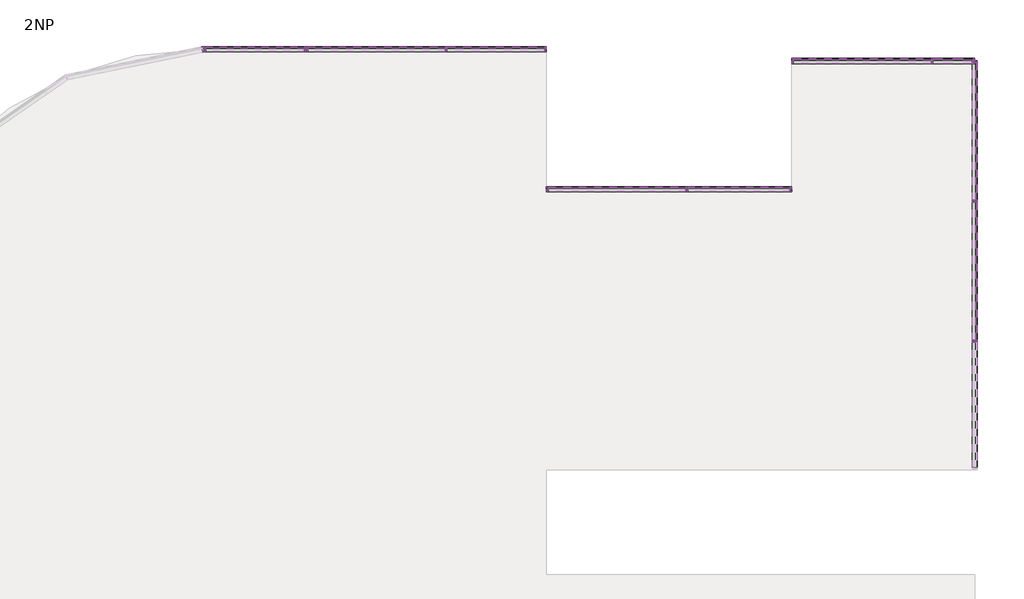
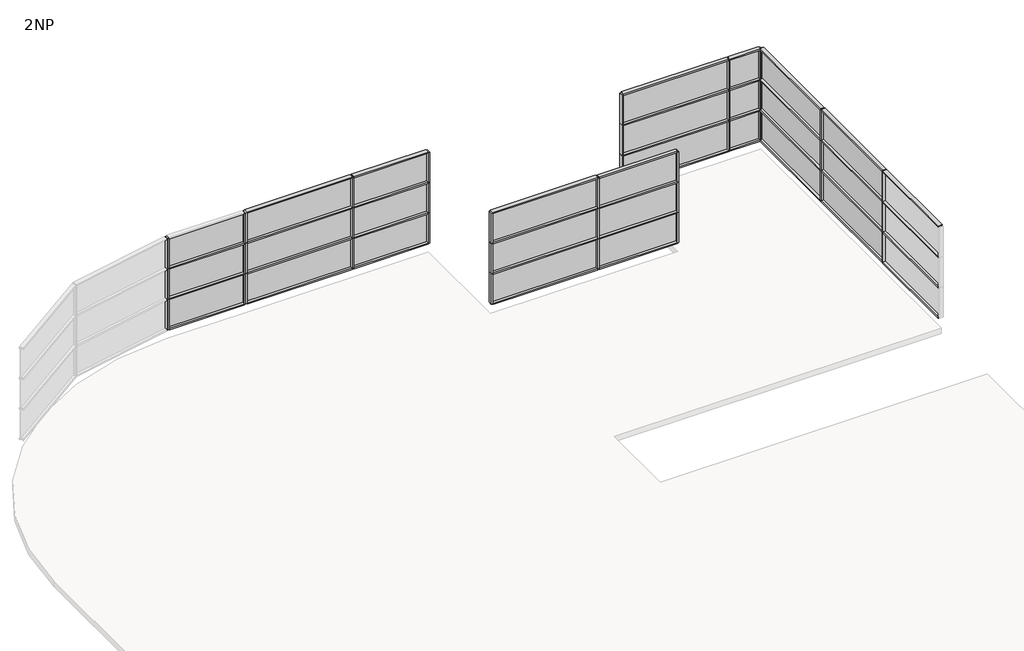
# One storey, part 3 of 4: 84 members, 27 plates.
"""IFC4 building model written with IfcOpenShell, lengths in millimetres."""

from ifc_helpers import new_model, si_unit, origin, place, context, project, spatial, transform, mapped, element, save
from components import rectangular_mullion_50_x_150mm_d99dc9be, rectangular_mullion_50_x_150mm_6588f46c, rectangular_mullion_50_x_150mm_3fe1b35e, rectangular_mullion_50_x_150mm_a037c29c, rectangular_mullion_50_x_150mm_c2546fd4, rectangular_mullion_50_x_150mm_8b4cb4b7, rectangular_mullion_50_x_150mm_185cfd49, rectangular_mullion_50_x_150mm_2fe63767, rectangular_mullion_50_x_150mm_6d604593, system_panel_glazed_8e9402eb, system_panel_glazed_89ac83a7, system_panel_glazed_e890f31e, system_panel_glazed_e3e91f99, system_panel_glazed_39d17f19, system_panel_glazed_18d93cd4

model = new_model("IFC4")

# Units and contexts
model_context = context("Model", 3, world=origin())
ifc_project = project(units=[si_unit("LENGTHUNIT", "METRE", prefix="MILLI")], contexts=[model_context])

# Site, building, storey
site = spatial("IfcSite", under=ifc_project)
building = spatial("IfcBuilding", under=site)
storey = spatial("IfcBuildingStorey", under=building, Name="2NP", Elevation=8000.0)

# Members
placement = place(None, origin())
rectangular_mullion_50_x_150mm_shape = rectangular_mullion_50_x_150mm_d99dc9be(model_context)
element("IfcMember", 1, ObjectType="Rectangular Mullion : 50 x 150mm", at=placement, inside=storey, context=model_context, shape_type="MappedRepresentation", body=[
    mapped(rectangular_mullion_50_x_150mm_shape, transform((13503.2660975, 39.3555415, 12000.0), x_axis=(0.0, -1.0, 0.0), y_axis=(1.0, 0.0, 0.0), z_axis=(0.0, 0.0, 1.0))),
])
element("IfcMember", 2, ObjectType="Rectangular Mullion : 50 x 150mm", at=placement, inside=storey, context=model_context, shape_type="MappedRepresentation", body=[
    mapped(rectangular_mullion_50_x_150mm_shape, transform((13503.2660975, 39.3555415, 10800.0), x_axis=(0.0, -1.0, 0.0), y_axis=(1.0, 0.0, 0.0), z_axis=(0.0, 0.0, 1.0))),
])
element("IfcMember", 3, ObjectType="Rectangular Mullion : 50 x 150mm", at=placement, inside=storey, context=model_context, shape_type="MappedRepresentation", body=[
    mapped(rectangular_mullion_50_x_150mm_shape, transform((13503.2660975, 39.3555415, 9600.0), x_axis=(0.0, -1.0, 0.0), y_axis=(1.0, 0.0, 0.0), z_axis=(0.0, 0.0, 1.0))),
])
element("IfcMember", 4, ObjectType="Rectangular Mullion : 50 x 150mm", at=placement, inside=storey, context=model_context, shape_type="MappedRepresentation", body=[
    mapped(rectangular_mullion_50_x_150mm_shape, transform((13503.2660975, 4039.3555415, 12000.0), x_axis=(0.0, -1.0, 0.0), y_axis=(1.0, 0.0, 0.0), z_axis=(0.0, 0.0, 1.0))),
])
element("IfcMember", 5, ObjectType="Rectangular Mullion : 50 x 150mm", at=placement, inside=storey, context=model_context, shape_type="MappedRepresentation", body=[
    mapped(rectangular_mullion_50_x_150mm_shape, transform((13503.2660975, 4039.3555415, 10800.0), x_axis=(0.0, -1.0, 0.0), y_axis=(1.0, 0.0, 0.0), z_axis=(0.0, 0.0, 1.0))),
])
element("IfcMember", 6, ObjectType="Rectangular Mullion : 50 x 150mm", at=placement, inside=storey, context=model_context, shape_type="MappedRepresentation", body=[
    mapped(rectangular_mullion_50_x_150mm_shape, transform((13503.2660975, 4039.3555415, 9600.0), x_axis=(0.0, -1.0, 0.0), y_axis=(1.0, 0.0, 0.0), z_axis=(0.0, 0.0, 1.0))),
])
element("IfcMember", 7, ObjectType="Rectangular Mullion : 50 x 150mm", at=placement, inside=storey, context=model_context, shape_type="MappedRepresentation", body=[
    mapped(rectangular_mullion_50_x_150mm_shape, transform((-1587.173406, 8375.9839566, 9600.0), x_axis=(1.0, 0.0, 0.0), y_axis=(0.0, 1.0, 0.0), z_axis=(0.0, 0.0, 1.0))),
])
element("IfcMember", 8, ObjectType="Rectangular Mullion : 50 x 150mm", at=placement, inside=storey, context=model_context, shape_type="MappedRepresentation", body=[
    mapped(rectangular_mullion_50_x_150mm_shape, transform((-1587.173406, 8375.9839566, 10800.0), x_axis=(1.0, 0.0, 0.0), y_axis=(0.0, 1.0, 0.0), z_axis=(0.0, 0.0, 1.0))),
])
element("IfcMember", 9, ObjectType="Rectangular Mullion : 50 x 150mm", at=placement, inside=storey, context=model_context, shape_type="MappedRepresentation", body=[
    mapped(rectangular_mullion_50_x_150mm_shape, transform((-1587.173406, 8375.9839566, 12000.0), x_axis=(1.0, 0.0, 0.0), y_axis=(0.0, 1.0, 0.0), z_axis=(0.0, 0.0, 1.0))),
])
element("IfcMember", 10, ObjectType="Rectangular Mullion : 50 x 150mm", at=placement, inside=storey, context=model_context, shape_type="MappedRepresentation", body=[
    mapped(rectangular_mullion_50_x_150mm_shape, transform((5278.419219, 4375.9839566, 9600.0), x_axis=(1.0, 0.0, 0.0), y_axis=(0.0, 1.0, 0.0), z_axis=(0.0, 0.0, 1.0))),
])
element("IfcMember", 11, ObjectType="Rectangular Mullion : 50 x 150mm", at=placement, inside=storey, context=model_context, shape_type="MappedRepresentation", body=[
    mapped(rectangular_mullion_50_x_150mm_shape, transform((5278.419219, 4375.9839566, 10800.0), x_axis=(1.0, 0.0, 0.0), y_axis=(0.0, 1.0, 0.0), z_axis=(0.0, 0.0, 1.0))),
])
element("IfcMember", 12, ObjectType="Rectangular Mullion : 50 x 150mm", at=placement, inside=storey, context=model_context, shape_type="MappedRepresentation", body=[
    mapped(rectangular_mullion_50_x_150mm_shape, transform((5278.419219, 4375.9839566, 12000.0), x_axis=(1.0, 0.0, 0.0), y_axis=(0.0, 1.0, 0.0), z_axis=(0.0, 0.0, 1.0))),
])
element("IfcMember", 13, ObjectType="Rectangular Mullion : 50 x 150mm", at=placement, inside=storey, context=model_context, shape_type="MappedRepresentation", body=[
    mapped(rectangular_mullion_50_x_150mm_shape, transform((12278.419219, 8039.3555415, 9600.0), x_axis=(1.0, 0.0, 0.0), y_axis=(0.0, 1.0, 0.0), z_axis=(0.0, 0.0, 1.0))),
])
element("IfcMember", 14, ObjectType="Rectangular Mullion : 50 x 150mm", at=placement, inside=storey, context=model_context, shape_type="MappedRepresentation", body=[
    mapped(rectangular_mullion_50_x_150mm_shape, transform((12278.419219, 8039.3555415, 10800.0), x_axis=(1.0, 0.0, 0.0), y_axis=(0.0, 1.0, 0.0), z_axis=(0.0, 0.0, 1.0))),
])
element("IfcMember", 15, ObjectType="Rectangular Mullion : 50 x 150mm", at=placement, inside=storey, context=model_context, shape_type="MappedRepresentation", body=[
    mapped(rectangular_mullion_50_x_150mm_shape, transform((12278.419219, 8039.3555415, 12000.0), x_axis=(1.0, 0.0, 0.0), y_axis=(0.0, 1.0, 0.0), z_axis=(0.0, 0.0, 1.0))),
])
rectangular_mullion_50_x_150mm_2_shape = rectangular_mullion_50_x_150mm_6588f46c(model_context)
element("IfcMember", 16, ObjectType="Rectangular Mullion : 50 x 150mm", at=placement, inside=storey, context=model_context, shape_type="MappedRepresentation", body=[
    mapped(rectangular_mullion_50_x_150mm_2_shape, transform((1278.419219, 8375.9839566, 9600.0), x_axis=(1.0, 0.0, 0.0), y_axis=(0.0, 1.0, 0.0), z_axis=(0.0, 0.0, 1.0))),
])
element("IfcMember", 17, ObjectType="Rectangular Mullion : 50 x 150mm", at=placement, inside=storey, context=model_context, shape_type="MappedRepresentation", body=[
    mapped(rectangular_mullion_50_x_150mm_2_shape, transform((1278.419219, 8375.9839566, 10800.0), x_axis=(1.0, 0.0, 0.0), y_axis=(0.0, 1.0, 0.0), z_axis=(0.0, 0.0, 1.0))),
])
element("IfcMember", 18, ObjectType="Rectangular Mullion : 50 x 150mm", at=placement, inside=storey, context=model_context, shape_type="MappedRepresentation", body=[
    mapped(rectangular_mullion_50_x_150mm_2_shape, transform((1278.419219, 8375.9839566, 12000.0), x_axis=(1.0, 0.0, 0.0), y_axis=(0.0, 1.0, 0.0), z_axis=(0.0, 0.0, 1.0))),
])
element("IfcMember", 19, ObjectType="Rectangular Mullion : 50 x 150mm", at=placement, inside=storey, context=model_context, shape_type="MappedRepresentation", body=[
    mapped(rectangular_mullion_50_x_150mm_2_shape, transform((8278.419219, 4375.9839566, 9600.0), x_axis=(1.0, 0.0, 0.0), y_axis=(0.0, 1.0, 0.0), z_axis=(0.0, 0.0, 1.0))),
])
element("IfcMember", 20, ObjectType="Rectangular Mullion : 50 x 150mm", at=placement, inside=storey, context=model_context, shape_type="MappedRepresentation", body=[
    mapped(rectangular_mullion_50_x_150mm_2_shape, transform((8278.419219, 4375.9839566, 10800.0), x_axis=(1.0, 0.0, 0.0), y_axis=(0.0, 1.0, 0.0), z_axis=(0.0, 0.0, 1.0))),
])
element("IfcMember", 21, ObjectType="Rectangular Mullion : 50 x 150mm", at=placement, inside=storey, context=model_context, shape_type="MappedRepresentation", body=[
    mapped(rectangular_mullion_50_x_150mm_2_shape, transform((8278.419219, 4375.9839566, 12000.0), x_axis=(1.0, 0.0, 0.0), y_axis=(0.0, 1.0, 0.0), z_axis=(0.0, 0.0, 1.0))),
])
element("IfcMember", 22, ObjectType="Rectangular Mullion : 50 x 150mm", at=placement, inside=storey, context=model_context, shape_type="MappedRepresentation", body=[
    mapped(rectangular_mullion_50_x_150mm_2_shape, transform((13503.2660975, 8039.3555415, 9600.0), x_axis=(1.0, 0.0, 0.0), y_axis=(0.0, 1.0, 0.0), z_axis=(0.0, 0.0, 1.0))),
])
element("IfcMember", 23, ObjectType="Rectangular Mullion : 50 x 150mm", at=placement, inside=storey, context=model_context, shape_type="MappedRepresentation", body=[
    mapped(rectangular_mullion_50_x_150mm_2_shape, transform((13503.2660975, 8039.3555415, 10800.0), x_axis=(1.0, 0.0, 0.0), y_axis=(0.0, 1.0, 0.0), z_axis=(0.0, 0.0, 1.0))),
])
element("IfcMember", 24, ObjectType="Rectangular Mullion : 50 x 150mm", at=placement, inside=storey, context=model_context, shape_type="MappedRepresentation", body=[
    mapped(rectangular_mullion_50_x_150mm_2_shape, transform((13503.2660975, 8039.3555415, 12000.0), x_axis=(1.0, 0.0, 0.0), y_axis=(0.0, 1.0, 0.0), z_axis=(0.0, 0.0, 1.0))),
])
element("IfcMember", 25, ObjectType="Rectangular Mullion : 50 x 150mm", at=placement, inside=storey, context=model_context, shape_type="MappedRepresentation", body=[
    mapped(rectangular_mullion_50_x_150mm_2_shape, transform((-5587.173406, 8375.9839566, 12000.0), x_axis=(1.0, 0.0, 0.0), y_axis=(0.0, 1.0, 0.0), z_axis=(0.0, 0.0, 1.0))),
])
element("IfcMember", 26, ObjectType="Rectangular Mullion : 50 x 150mm", at=placement, inside=storey, context=model_context, shape_type="MappedRepresentation", body=[
    mapped(rectangular_mullion_50_x_150mm_2_shape, transform((-5587.173406, 8375.9839566, 9600.0), x_axis=(1.0, 0.0, 0.0), y_axis=(0.0, 1.0, 0.0), z_axis=(0.0, 0.0, 1.0))),
])
element("IfcMember", 27, ObjectType="Rectangular Mullion : 50 x 150mm", at=placement, inside=storey, context=model_context, shape_type="MappedRepresentation", body=[
    mapped(rectangular_mullion_50_x_150mm_2_shape, transform((-5587.173406, 8375.9839566, 10800.0), x_axis=(1.0, 0.0, 0.0), y_axis=(0.0, 1.0, 0.0), z_axis=(0.0, 0.0, 1.0))),
])
element("IfcMember", 28, ObjectType="Rectangular Mullion : 50 x 150mm", at=placement, inside=storey, context=model_context, shape_type="MappedRepresentation", body=[
    mapped(rectangular_mullion_50_x_150mm_2_shape, transform((-8496.7339025, 8375.9839566, 9600.0), x_axis=(0.9797958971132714, 0.1999999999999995, 0.0), y_axis=(-0.1999999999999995, 0.9797958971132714, 0.0), z_axis=(0.0, 0.0, 1.0))),
])
element("IfcMember", 29, ObjectType="Rectangular Mullion : 50 x 150mm", at=placement, inside=storey, context=model_context, shape_type="MappedRepresentation", body=[
    mapped(rectangular_mullion_50_x_150mm_2_shape, transform((-8496.7339025, 8375.9839566, 10800.0), x_axis=(0.9797958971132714, 0.1999999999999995, 0.0), y_axis=(-0.1999999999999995, 0.9797958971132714, 0.0), z_axis=(0.0, 0.0, 1.0))),
])
element("IfcMember", 30, ObjectType="Rectangular Mullion : 50 x 150mm", at=placement, inside=storey, context=model_context, shape_type="MappedRepresentation", body=[
    mapped(rectangular_mullion_50_x_150mm_2_shape, transform((-8496.7339025, 8375.9839566, 12000.0), x_axis=(0.9797958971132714, 0.1999999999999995, 0.0), y_axis=(-0.1999999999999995, 0.9797958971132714, 0.0), z_axis=(0.0, 0.0, 1.0))),
])
rectangular_mullion_50_x_150mm_3_shape = rectangular_mullion_50_x_150mm_3fe1b35e(model_context)
element("IfcMember", 31, ObjectType="Rectangular Mullion : 50 x 150mm", at=placement, inside=storey, context=model_context, shape_type="MappedRepresentation", body=[
    mapped(rectangular_mullion_50_x_150mm_3_shape, transform((13503.2660975, 14.3555415, 8400.0), x_axis=(0.0, 0.0, 1.0), y_axis=(1.0, 0.0, 0.0), z_axis=(0.0, 1.0, 0.0))),
])
element("IfcMember", 32, ObjectType="Rectangular Mullion : 50 x 150mm", at=placement, inside=storey, context=model_context, shape_type="MappedRepresentation", body=[
    mapped(rectangular_mullion_50_x_150mm_3_shape, transform((13503.2660975, 14.3555415, 9600.0), x_axis=(0.0, 0.0, 1.0), y_axis=(1.0, 0.0, 0.0), z_axis=(0.0, 1.0, 0.0))),
])
element("IfcMember", 33, ObjectType="Rectangular Mullion : 50 x 150mm", at=placement, inside=storey, context=model_context, shape_type="MappedRepresentation", body=[
    mapped(rectangular_mullion_50_x_150mm_3_shape, transform((13503.2660975, 14.3555415, 10800.0), x_axis=(0.0, 0.0, 1.0), y_axis=(1.0, 0.0, 0.0), z_axis=(0.0, 1.0, 0.0))),
])
element("IfcMember", 34, ObjectType="Rectangular Mullion : 50 x 150mm", at=placement, inside=storey, context=model_context, shape_type="MappedRepresentation", body=[
    mapped(rectangular_mullion_50_x_150mm_3_shape, transform((13503.2660975, 14.3555415, 12000.0), x_axis=(0.0, 0.0, 1.0), y_axis=(1.0, 0.0, 0.0), z_axis=(0.0, 1.0, 0.0))),
])
rectangular_mullion_50_x_150mm_4_shape = rectangular_mullion_50_x_150mm_a037c29c(model_context)
element("IfcMember", 35, ObjectType="Rectangular Mullion : 50 x 150mm", at=placement, inside=storey, context=model_context, shape_type="MappedRepresentation", body=[
    mapped(rectangular_mullion_50_x_150mm_4_shape, transform((13503.2660975, 4014.3555415, 9600.0), x_axis=(0.0, 0.0, 1.0), y_axis=(1.0, 0.0, 0.0), z_axis=(0.0, 1.0, 0.0))),
])
element("IfcMember", 36, ObjectType="Rectangular Mullion : 50 x 150mm", at=placement, inside=storey, context=model_context, shape_type="MappedRepresentation", body=[
    mapped(rectangular_mullion_50_x_150mm_4_shape, transform((13503.2660975, 4014.3555415, 8400.0), x_axis=(0.0, 0.0, 1.0), y_axis=(1.0, 0.0, 0.0), z_axis=(0.0, 1.0, 0.0))),
])
element("IfcMember", 37, ObjectType="Rectangular Mullion : 50 x 150mm", at=placement, inside=storey, context=model_context, shape_type="MappedRepresentation", body=[
    mapped(rectangular_mullion_50_x_150mm_4_shape, transform((13503.2660975, 4014.3555415, 12000.0), x_axis=(0.0, 0.0, 1.0), y_axis=(1.0, 0.0, 0.0), z_axis=(0.0, 1.0, 0.0))),
])
element("IfcMember", 38, ObjectType="Rectangular Mullion : 50 x 150mm", at=placement, inside=storey, context=model_context, shape_type="MappedRepresentation", body=[
    mapped(rectangular_mullion_50_x_150mm_4_shape, transform((13503.2660975, 4014.3555415, 10800.0), x_axis=(0.0, 0.0, 1.0), y_axis=(1.0, 0.0, 0.0), z_axis=(0.0, 1.0, 0.0))),
])
rectangular_mullion_50_x_150mm_5_shape = rectangular_mullion_50_x_150mm_c2546fd4(model_context)
element("IfcMember", 39, ObjectType="Rectangular Mullion : 50 x 150mm", at=placement, inside=storey, context=model_context, shape_type="MappedRepresentation", body=[
    mapped(rectangular_mullion_50_x_150mm_5_shape, transform((13503.2660975, 7989.3555415, 9600.0), x_axis=(0.0, 0.0, 1.0), y_axis=(1.0, 0.0, 0.0), z_axis=(0.0, 1.0, 0.0))),
])
element("IfcMember", 40, ObjectType="Rectangular Mullion : 50 x 150mm", at=placement, inside=storey, context=model_context, shape_type="MappedRepresentation", body=[
    mapped(rectangular_mullion_50_x_150mm_5_shape, transform((13503.2660975, 7989.3555415, 8400.0), x_axis=(0.0, 0.0, 1.0), y_axis=(1.0, 0.0, 0.0), z_axis=(0.0, 1.0, 0.0))),
])
element("IfcMember", 41, ObjectType="Rectangular Mullion : 50 x 150mm", at=placement, inside=storey, context=model_context, shape_type="MappedRepresentation", body=[
    mapped(rectangular_mullion_50_x_150mm_5_shape, transform((13503.2660975, 7989.3555415, 10800.0), x_axis=(0.0, 0.0, 1.0), y_axis=(1.0, 0.0, 0.0), z_axis=(0.0, 1.0, 0.0))),
])
element("IfcMember", 42, ObjectType="Rectangular Mullion : 50 x 150mm", at=placement, inside=storey, context=model_context, shape_type="MappedRepresentation", body=[
    mapped(rectangular_mullion_50_x_150mm_5_shape, transform((13503.2660975, 7989.3555415, 12000.0), x_axis=(0.0, 0.0, 1.0), y_axis=(1.0, 0.0, 0.0), z_axis=(0.0, 1.0, 0.0))),
])
element("IfcMember", 43, ObjectType="Rectangular Mullion : 50 x 150mm", at=placement, inside=storey, context=model_context, shape_type="MappedRepresentation", body=[
    mapped(rectangular_mullion_50_x_150mm_5_shape, transform((-5537.173406, 8375.9839566, 12000.0), x_axis=(0.0, 0.0, 1.0), y_axis=(0.0, 1.0, 0.0), z_axis=(-1.0, 0.0, 0.0))),
])
element("IfcMember", 44, ObjectType="Rectangular Mullion : 50 x 150mm", at=placement, inside=storey, context=model_context, shape_type="MappedRepresentation", body=[
    mapped(rectangular_mullion_50_x_150mm_5_shape, transform((-5537.173406, 8375.9839566, 8400.0), x_axis=(0.0, 0.0, 1.0), y_axis=(0.0, 1.0, 0.0), z_axis=(-1.0, 0.0, 0.0))),
])
element("IfcMember", 45, ObjectType="Rectangular Mullion : 50 x 150mm", at=placement, inside=storey, context=model_context, shape_type="MappedRepresentation", body=[
    mapped(rectangular_mullion_50_x_150mm_5_shape, transform((-5537.173406, 8375.9839566, 9600.0), x_axis=(0.0, 0.0, 1.0), y_axis=(0.0, 1.0, 0.0), z_axis=(-1.0, 0.0, 0.0))),
])
element("IfcMember", 46, ObjectType="Rectangular Mullion : 50 x 150mm", at=placement, inside=storey, context=model_context, shape_type="MappedRepresentation", body=[
    mapped(rectangular_mullion_50_x_150mm_5_shape, transform((-5537.173406, 8375.9839566, 10800.0), x_axis=(0.0, 0.0, 1.0), y_axis=(0.0, 1.0, 0.0), z_axis=(-1.0, 0.0, 0.0))),
])
element("IfcMember", 47, ObjectType="Rectangular Mullion : 50 x 150mm", at=placement, inside=storey, context=model_context, shape_type="MappedRepresentation", body=[
    mapped(rectangular_mullion_50_x_150mm_5_shape, transform((1328.419219, 4375.9839566, 12000.0), x_axis=(0.0, 0.0, 1.0), y_axis=(0.0, 1.0, 0.0), z_axis=(-1.0, 0.0, 0.0))),
])
element("IfcMember", 48, ObjectType="Rectangular Mullion : 50 x 150mm", at=placement, inside=storey, context=model_context, shape_type="MappedRepresentation", body=[
    mapped(rectangular_mullion_50_x_150mm_5_shape, transform((1328.419219, 4375.9839566, 8400.0), x_axis=(0.0, 0.0, 1.0), y_axis=(0.0, 1.0, 0.0), z_axis=(-1.0, 0.0, 0.0))),
])
element("IfcMember", 49, ObjectType="Rectangular Mullion : 50 x 150mm", at=placement, inside=storey, context=model_context, shape_type="MappedRepresentation", body=[
    mapped(rectangular_mullion_50_x_150mm_5_shape, transform((1328.419219, 4375.9839566, 9600.0), x_axis=(0.0, 0.0, 1.0), y_axis=(0.0, 1.0, 0.0), z_axis=(-1.0, 0.0, 0.0))),
])
element("IfcMember", 50, ObjectType="Rectangular Mullion : 50 x 150mm", at=placement, inside=storey, context=model_context, shape_type="MappedRepresentation", body=[
    mapped(rectangular_mullion_50_x_150mm_5_shape, transform((1328.419219, 4375.9839566, 10800.0), x_axis=(0.0, 0.0, 1.0), y_axis=(0.0, 1.0, 0.0), z_axis=(-1.0, 0.0, 0.0))),
])
element("IfcMember", 51, ObjectType="Rectangular Mullion : 50 x 150mm", at=placement, inside=storey, context=model_context, shape_type="MappedRepresentation", body=[
    mapped(rectangular_mullion_50_x_150mm_5_shape, transform((8328.419219, 8039.3555415, 12000.0), x_axis=(0.0, 0.0, 1.0), y_axis=(0.0, 1.0, 0.0), z_axis=(-1.0, 0.0, 0.0))),
])
element("IfcMember", 52, ObjectType="Rectangular Mullion : 50 x 150mm", at=placement, inside=storey, context=model_context, shape_type="MappedRepresentation", body=[
    mapped(rectangular_mullion_50_x_150mm_5_shape, transform((8328.419219, 8039.3555415, 8400.0), x_axis=(0.0, 0.0, 1.0), y_axis=(0.0, 1.0, 0.0), z_axis=(-1.0, 0.0, 0.0))),
])
element("IfcMember", 53, ObjectType="Rectangular Mullion : 50 x 150mm", at=placement, inside=storey, context=model_context, shape_type="MappedRepresentation", body=[
    mapped(rectangular_mullion_50_x_150mm_5_shape, transform((8328.419219, 8039.3555415, 9600.0), x_axis=(0.0, 0.0, 1.0), y_axis=(0.0, 1.0, 0.0), z_axis=(-1.0, 0.0, 0.0))),
])
element("IfcMember", 54, ObjectType="Rectangular Mullion : 50 x 150mm", at=placement, inside=storey, context=model_context, shape_type="MappedRepresentation", body=[
    mapped(rectangular_mullion_50_x_150mm_5_shape, transform((8328.419219, 8039.3555415, 10800.0), x_axis=(0.0, 0.0, 1.0), y_axis=(0.0, 1.0, 0.0), z_axis=(-1.0, 0.0, 0.0))),
])
element("IfcMember", 55, ObjectType="Rectangular Mullion : 50 x 150mm", at=placement, inside=storey, context=model_context, shape_type="MappedRepresentation", body=[
    mapped(rectangular_mullion_50_x_150mm_2_shape, transform((13503.2660975, 8039.3555415, 10800.0), x_axis=(0.0, 1.0, 0.0), y_axis=(1.0, 0.0, 0.0), z_axis=(0.0, 0.0, -1.0))),
])
element("IfcMember", 56, ObjectType="Rectangular Mullion : 50 x 150mm", at=placement, inside=storey, context=model_context, shape_type="MappedRepresentation", body=[
    mapped(rectangular_mullion_50_x_150mm_2_shape, transform((13503.2660975, 8039.3555415, 9600.0), x_axis=(0.0, 1.0, 0.0), y_axis=(1.0, 0.0, 0.0), z_axis=(0.0, 0.0, -1.0))),
])
element("IfcMember", 57, ObjectType="Rectangular Mullion : 50 x 150mm", at=placement, inside=storey, context=model_context, shape_type="MappedRepresentation", body=[
    mapped(rectangular_mullion_50_x_150mm_2_shape, transform((13503.2660975, 8039.3555415, 8400.0), x_axis=(0.0, 1.0, 0.0), y_axis=(1.0, 0.0, 0.0), z_axis=(0.0, 0.0, -1.0))),
])
element("IfcMember", 58, ObjectType="Rectangular Mullion : 50 x 150mm", at=placement, inside=storey, context=model_context, shape_type="MappedRepresentation", body=[
    mapped(rectangular_mullion_50_x_150mm_2_shape, transform((-5587.173406, 8375.9839566, 8400.0), x_axis=(-1.0, 0.0, 0.0), y_axis=(0.0, 1.0, 0.0), z_axis=(0.0, 0.0, -1.0))),
])
element("IfcMember", 59, ObjectType="Rectangular Mullion : 50 x 150mm", at=placement, inside=storey, context=model_context, shape_type="MappedRepresentation", body=[
    mapped(rectangular_mullion_50_x_150mm_2_shape, transform((-5587.173406, 8375.9839566, 9600.0), x_axis=(-1.0, 0.0, 0.0), y_axis=(0.0, 1.0, 0.0), z_axis=(0.0, 0.0, -1.0))),
])
element("IfcMember", 60, ObjectType="Rectangular Mullion : 50 x 150mm", at=placement, inside=storey, context=model_context, shape_type="MappedRepresentation", body=[
    mapped(rectangular_mullion_50_x_150mm_2_shape, transform((-5587.173406, 8375.9839566, 10800.0), x_axis=(-1.0, 0.0, 0.0), y_axis=(0.0, 1.0, 0.0), z_axis=(0.0, 0.0, -1.0))),
])
element("IfcMember", 61, ObjectType="Rectangular Mullion : 50 x 150mm", at=placement, inside=storey, context=model_context, shape_type="MappedRepresentation", body=[
    mapped(rectangular_mullion_50_x_150mm_2_shape, transform((1278.419219, 4375.9839566, 8400.0), x_axis=(-1.0, 0.0, 0.0), y_axis=(0.0, 1.0, 0.0), z_axis=(0.0, 0.0, -1.0))),
])
element("IfcMember", 62, ObjectType="Rectangular Mullion : 50 x 150mm", at=placement, inside=storey, context=model_context, shape_type="MappedRepresentation", body=[
    mapped(rectangular_mullion_50_x_150mm_2_shape, transform((1278.419219, 4375.9839566, 9600.0), x_axis=(-1.0, 0.0, 0.0), y_axis=(0.0, 1.0, 0.0), z_axis=(0.0, 0.0, -1.0))),
])
element("IfcMember", 63, ObjectType="Rectangular Mullion : 50 x 150mm", at=placement, inside=storey, context=model_context, shape_type="MappedRepresentation", body=[
    mapped(rectangular_mullion_50_x_150mm_2_shape, transform((1278.419219, 4375.9839566, 10800.0), x_axis=(-1.0, 0.0, 0.0), y_axis=(0.0, 1.0, 0.0), z_axis=(0.0, 0.0, -1.0))),
])
element("IfcMember", 64, ObjectType="Rectangular Mullion : 50 x 150mm", at=placement, inside=storey, context=model_context, shape_type="MappedRepresentation", body=[
    mapped(rectangular_mullion_50_x_150mm_2_shape, transform((8278.419219, 8039.3555415, 8400.0), x_axis=(-1.0, 0.0, 0.0), y_axis=(0.0, 1.0, 0.0), z_axis=(0.0, 0.0, -1.0))),
])
element("IfcMember", 65, ObjectType="Rectangular Mullion : 50 x 150mm", at=placement, inside=storey, context=model_context, shape_type="MappedRepresentation", body=[
    mapped(rectangular_mullion_50_x_150mm_2_shape, transform((8278.419219, 8039.3555415, 9600.0), x_axis=(-1.0, 0.0, 0.0), y_axis=(0.0, 1.0, 0.0), z_axis=(0.0, 0.0, -1.0))),
])
element("IfcMember", 66, ObjectType="Rectangular Mullion : 50 x 150mm", at=placement, inside=storey, context=model_context, shape_type="MappedRepresentation", body=[
    mapped(rectangular_mullion_50_x_150mm_2_shape, transform((8278.419219, 8039.3555415, 10800.0), x_axis=(-1.0, 0.0, 0.0), y_axis=(0.0, 1.0, 0.0), z_axis=(0.0, 0.0, -1.0))),
])
element("IfcMember", 67, ObjectType="Rectangular Mullion : 50 x 150mm", at=placement, inside=storey, context=model_context, shape_type="MappedRepresentation", body=[
    mapped(rectangular_mullion_50_x_150mm_2_shape, transform((-8496.7339025, 8375.9839566, 8400.0), x_axis=(-1.0, 0.0, 0.0), y_axis=(0.0, 1.0, 0.0), z_axis=(0.0, 0.0, -1.0))),
])
element("IfcMember", 68, ObjectType="Rectangular Mullion : 50 x 150mm", at=placement, inside=storey, context=model_context, shape_type="MappedRepresentation", body=[
    mapped(rectangular_mullion_50_x_150mm_2_shape, transform((-8496.7339025, 8375.9839566, 9600.0), x_axis=(-1.0, 0.0, 0.0), y_axis=(0.0, 1.0, 0.0), z_axis=(0.0, 0.0, -1.0))),
])
element("IfcMember", 69, ObjectType="Rectangular Mullion : 50 x 150mm", at=placement, inside=storey, context=model_context, shape_type="MappedRepresentation", body=[
    mapped(rectangular_mullion_50_x_150mm_2_shape, transform((-8496.7339025, 8375.9839566, 10800.0), x_axis=(-1.0, 0.0, 0.0), y_axis=(0.0, 1.0, 0.0), z_axis=(0.0, 0.0, -1.0))),
])
rectangular_mullion_50_x_150mm_6_shape = rectangular_mullion_50_x_150mm_8b4cb4b7(model_context)
element("IfcMember", 70, ObjectType="Rectangular Mullion : 50 x 150mm", at=placement, inside=storey, context=model_context, shape_type="MappedRepresentation", body=[
    mapped(rectangular_mullion_50_x_150mm_6_shape, transform((-1562.173406, 8375.9839566, 10800.0), x_axis=(0.0, 0.0, 1.0), y_axis=(0.0, 1.0, 0.0), z_axis=(-1.0, 0.0, 0.0))),
])
element("IfcMember", 71, ObjectType="Rectangular Mullion : 50 x 150mm", at=placement, inside=storey, context=model_context, shape_type="MappedRepresentation", body=[
    mapped(rectangular_mullion_50_x_150mm_6_shape, transform((-1562.173406, 8375.9839566, 12000.0), x_axis=(0.0, 0.0, 1.0), y_axis=(0.0, 1.0, 0.0), z_axis=(-1.0, 0.0, 0.0))),
])
element("IfcMember", 72, ObjectType="Rectangular Mullion : 50 x 150mm", at=placement, inside=storey, context=model_context, shape_type="MappedRepresentation", body=[
    mapped(rectangular_mullion_50_x_150mm_6_shape, transform((-1562.173406, 8375.9839566, 8400.0), x_axis=(0.0, 0.0, 1.0), y_axis=(0.0, 1.0, 0.0), z_axis=(-1.0, 0.0, 0.0))),
])
element("IfcMember", 73, ObjectType="Rectangular Mullion : 50 x 150mm", at=placement, inside=storey, context=model_context, shape_type="MappedRepresentation", body=[
    mapped(rectangular_mullion_50_x_150mm_6_shape, transform((-1562.173406, 8375.9839566, 9600.0), x_axis=(0.0, 0.0, 1.0), y_axis=(0.0, 1.0, 0.0), z_axis=(-1.0, 0.0, 0.0))),
])
rectangular_mullion_50_x_150mm_7_shape = rectangular_mullion_50_x_150mm_185cfd49(model_context)
element("IfcMember", 74, ObjectType="Rectangular Mullion : 50 x 150mm", at=placement, inside=storey, context=model_context, shape_type="MappedRepresentation", body=[
    mapped(rectangular_mullion_50_x_150mm_7_shape, transform((5303.419219, 4375.9839566, 10800.0), x_axis=(0.0, 0.0, 1.0), y_axis=(0.0, 1.0, 0.0), z_axis=(-1.0, 0.0, 0.0))),
])
element("IfcMember", 75, ObjectType="Rectangular Mullion : 50 x 150mm", at=placement, inside=storey, context=model_context, shape_type="MappedRepresentation", body=[
    mapped(rectangular_mullion_50_x_150mm_7_shape, transform((5303.419219, 4375.9839566, 12000.0), x_axis=(0.0, 0.0, 1.0), y_axis=(0.0, 1.0, 0.0), z_axis=(-1.0, 0.0, 0.0))),
])
element("IfcMember", 76, ObjectType="Rectangular Mullion : 50 x 150mm", at=placement, inside=storey, context=model_context, shape_type="MappedRepresentation", body=[
    mapped(rectangular_mullion_50_x_150mm_7_shape, transform((5303.419219, 4375.9839566, 8400.0), x_axis=(0.0, 0.0, 1.0), y_axis=(0.0, 1.0, 0.0), z_axis=(-1.0, 0.0, 0.0))),
])
element("IfcMember", 77, ObjectType="Rectangular Mullion : 50 x 150mm", at=placement, inside=storey, context=model_context, shape_type="MappedRepresentation", body=[
    mapped(rectangular_mullion_50_x_150mm_7_shape, transform((5303.419219, 4375.9839566, 9600.0), x_axis=(0.0, 0.0, 1.0), y_axis=(0.0, 1.0, 0.0), z_axis=(-1.0, 0.0, 0.0))),
])
rectangular_mullion_50_x_150mm_8_shape = rectangular_mullion_50_x_150mm_2fe63767(model_context)
element("IfcMember", 78, ObjectType="Rectangular Mullion : 50 x 150mm", at=placement, inside=storey, context=model_context, shape_type="MappedRepresentation", body=[
    mapped(rectangular_mullion_50_x_150mm_8_shape, transform((12303.419219, 8039.3555415, 10800.0), x_axis=(0.0, 0.0, 1.0), y_axis=(0.0, 1.0, 0.0), z_axis=(-1.0, 0.0, 0.0))),
])
element("IfcMember", 79, ObjectType="Rectangular Mullion : 50 x 150mm", at=placement, inside=storey, context=model_context, shape_type="MappedRepresentation", body=[
    mapped(rectangular_mullion_50_x_150mm_8_shape, transform((12303.419219, 8039.3555415, 12000.0), x_axis=(0.0, 0.0, 1.0), y_axis=(0.0, 1.0, 0.0), z_axis=(-1.0, 0.0, 0.0))),
])
element("IfcMember", 80, ObjectType="Rectangular Mullion : 50 x 150mm", at=placement, inside=storey, context=model_context, shape_type="MappedRepresentation", body=[
    mapped(rectangular_mullion_50_x_150mm_8_shape, transform((12303.419219, 8039.3555415, 8400.0), x_axis=(0.0, 0.0, 1.0), y_axis=(0.0, 1.0, 0.0), z_axis=(-1.0, 0.0, 0.0))),
])
element("IfcMember", 81, ObjectType="Rectangular Mullion : 50 x 150mm", at=placement, inside=storey, context=model_context, shape_type="MappedRepresentation", body=[
    mapped(rectangular_mullion_50_x_150mm_8_shape, transform((12303.419219, 8039.3555415, 9600.0), x_axis=(0.0, 0.0, 1.0), y_axis=(0.0, 1.0, 0.0), z_axis=(-1.0, 0.0, 0.0))),
])
rectangular_mullion_50_x_150mm_9_shape = rectangular_mullion_50_x_150mm_6d604593(model_context)
element("IfcMember", 82, ObjectType="Rectangular Mullion : 50 x 150mm", at=placement, inside=storey, context=model_context, shape_type="MappedRepresentation", body=[
    mapped(rectangular_mullion_50_x_150mm_9_shape, transform((-8446.7339025, 8375.9839566, 8400.0), x_axis=(0.0, 0.0, 1.0), y_axis=(0.0, 1.0, 0.0), z_axis=(-1.0, 0.0, 0.0))),
])
element("IfcMember", 83, ObjectType="Rectangular Mullion : 50 x 150mm", at=placement, inside=storey, context=model_context, shape_type="MappedRepresentation", body=[
    mapped(rectangular_mullion_50_x_150mm_9_shape, transform((-8446.7339025, 8375.9839566, 9600.0), x_axis=(0.0, 0.0, 1.0), y_axis=(0.0, 1.0, 0.0), z_axis=(-1.0, 0.0, 0.0))),
])
element("IfcMember", 84, ObjectType="Rectangular Mullion : 50 x 150mm", at=placement, inside=storey, context=model_context, shape_type="MappedRepresentation", body=[
    mapped(rectangular_mullion_50_x_150mm_9_shape, transform((-8446.7339025, 8375.9839566, 10800.0), x_axis=(0.0, 0.0, 1.0), y_axis=(0.0, 1.0, 0.0), z_axis=(-1.0, 0.0, 0.0))),
])

# Plates
system_panel_glazed_shape = system_panel_glazed_8e9402eb(model_context)
element("IfcPlate", 85, ObjectType="System Panel : Glazed", at=placement, inside=storey, context=model_context, shape_type="MappedRepresentation", body=[
    mapped(system_panel_glazed_shape, transform((13503.2660975, 6026.8555415, 8425.0), x_axis=(0.0, -1.0, 0.0), y_axis=(1.0, 0.0, 0.0), z_axis=(0.0, 0.0, 1.0))),
])
element("IfcPlate", 86, ObjectType="System Panel : Glazed", at=placement, inside=storey, context=model_context, shape_type="MappedRepresentation", body=[
    mapped(system_panel_glazed_shape, transform((13503.2660975, 6026.8555415, 9625.0), x_axis=(0.0, -1.0, 0.0), y_axis=(1.0, 0.0, 0.0), z_axis=(0.0, 0.0, 1.0))),
])
element("IfcPlate", 87, ObjectType="System Panel : Glazed", at=placement, inside=storey, context=model_context, shape_type="MappedRepresentation", body=[
    mapped(system_panel_glazed_shape, transform((13503.2660975, 6026.8555415, 10825.0), x_axis=(0.0, -1.0, 0.0), y_axis=(1.0, 0.0, 0.0), z_axis=(0.0, 0.0, 1.0))),
])
element("IfcPlate", 88, ObjectType="System Panel : Glazed", at=placement, inside=storey, context=model_context, shape_type="MappedRepresentation", body=[
    mapped(system_panel_glazed_shape, transform((10290.919219, 8039.3555415, 8425.0), x_axis=(1.0, 0.0, 0.0), y_axis=(0.0, 1.0, 0.0), z_axis=(0.0, 0.0, 1.0))),
])
element("IfcPlate", 89, ObjectType="System Panel : Glazed", at=placement, inside=storey, context=model_context, shape_type="MappedRepresentation", body=[
    mapped(system_panel_glazed_shape, transform((10290.919219, 8039.3555415, 9625.0), x_axis=(1.0, 0.0, 0.0), y_axis=(0.0, 1.0, 0.0), z_axis=(0.0, 0.0, 1.0))),
])
element("IfcPlate", 90, ObjectType="System Panel : Glazed", at=placement, inside=storey, context=model_context, shape_type="MappedRepresentation", body=[
    mapped(system_panel_glazed_shape, transform((10290.919219, 8039.3555415, 10825.0), x_axis=(1.0, 0.0, 0.0), y_axis=(0.0, 1.0, 0.0), z_axis=(0.0, 0.0, 1.0))),
])
element("IfcPlate", 91, ObjectType="System Panel : Glazed", at=placement, inside=storey, context=model_context, shape_type="MappedRepresentation", body=[
    mapped(system_panel_glazed_shape, transform((3290.919219, 4375.9839566, 8425.0), x_axis=(1.0, 0.0, 0.0), y_axis=(0.0, 1.0, 0.0), z_axis=(0.0, 0.0, 1.0))),
])
element("IfcPlate", 92, ObjectType="System Panel : Glazed", at=placement, inside=storey, context=model_context, shape_type="MappedRepresentation", body=[
    mapped(system_panel_glazed_shape, transform((3290.919219, 4375.9839566, 9625.0), x_axis=(1.0, 0.0, 0.0), y_axis=(0.0, 1.0, 0.0), z_axis=(0.0, 0.0, 1.0))),
])
element("IfcPlate", 93, ObjectType="System Panel : Glazed", at=placement, inside=storey, context=model_context, shape_type="MappedRepresentation", body=[
    mapped(system_panel_glazed_shape, transform((3290.919219, 4375.9839566, 10825.0), x_axis=(1.0, 0.0, 0.0), y_axis=(0.0, 1.0, 0.0), z_axis=(0.0, 0.0, 1.0))),
])
element("IfcPlate", 94, ObjectType="System Panel : Glazed", at=placement, inside=storey, context=model_context, shape_type="MappedRepresentation", body=[
    mapped(system_panel_glazed_shape, transform((-3574.673406, 8375.9839566, 8425.0), x_axis=(1.0, 0.0, 0.0), y_axis=(0.0, 1.0, 0.0), z_axis=(0.0, 0.0, 1.0))),
])
element("IfcPlate", 95, ObjectType="System Panel : Glazed", at=placement, inside=storey, context=model_context, shape_type="MappedRepresentation", body=[
    mapped(system_panel_glazed_shape, transform((-3574.673406, 8375.9839566, 9625.0), x_axis=(1.0, 0.0, 0.0), y_axis=(0.0, 1.0, 0.0), z_axis=(0.0, 0.0, 1.0))),
])
element("IfcPlate", 96, ObjectType="System Panel : Glazed", at=placement, inside=storey, context=model_context, shape_type="MappedRepresentation", body=[
    mapped(system_panel_glazed_shape, transform((-3574.673406, 8375.9839566, 10825.0), x_axis=(1.0, 0.0, 0.0), y_axis=(0.0, 1.0, 0.0), z_axis=(0.0, 0.0, 1.0))),
])
system_panel_glazed_2_shape = system_panel_glazed_89ac83a7(model_context)
element("IfcPlate", 97, ObjectType="System Panel : Glazed", at=placement, inside=storey, context=model_context, shape_type="MappedRepresentation", body=[
    mapped(system_panel_glazed_2_shape, transform((13503.2660975, 2039.3555415, 8425.0), x_axis=(0.0, -1.0, 0.0), y_axis=(1.0, 0.0, 0.0), z_axis=(0.0, 0.0, 1.0))),
])
element("IfcPlate", 98, ObjectType="System Panel : Glazed", at=placement, inside=storey, context=model_context, shape_type="MappedRepresentation", body=[
    mapped(system_panel_glazed_2_shape, transform((13503.2660975, 2039.3555415, 9625.0), x_axis=(0.0, -1.0, 0.0), y_axis=(1.0, 0.0, 0.0), z_axis=(0.0, 0.0, 1.0))),
])
element("IfcPlate", 99, ObjectType="System Panel : Glazed", at=placement, inside=storey, context=model_context, shape_type="MappedRepresentation", body=[
    mapped(system_panel_glazed_2_shape, transform((13503.2660975, 2039.3555415, 10825.0), x_axis=(0.0, -1.0, 0.0), y_axis=(1.0, 0.0, 0.0), z_axis=(0.0, 0.0, 1.0))),
])
system_panel_glazed_3_shape = system_panel_glazed_e890f31e(model_context)
element("IfcPlate", 100, ObjectType="System Panel : Glazed", at=placement, inside=storey, context=model_context, shape_type="MappedRepresentation", body=[
    mapped(system_panel_glazed_3_shape, transform((-166.8770935, 8375.9839566, 8425.0), x_axis=(1.0, 0.0, 0.0), y_axis=(0.0, 1.0, 0.0), z_axis=(0.0, 0.0, 1.0))),
])
element("IfcPlate", 101, ObjectType="System Panel : Glazed", at=placement, inside=storey, context=model_context, shape_type="MappedRepresentation", body=[
    mapped(system_panel_glazed_3_shape, transform((-166.8770935, 8375.9839566, 9625.0), x_axis=(1.0, 0.0, 0.0), y_axis=(0.0, 1.0, 0.0), z_axis=(0.0, 0.0, 1.0))),
])
element("IfcPlate", 102, ObjectType="System Panel : Glazed", at=placement, inside=storey, context=model_context, shape_type="MappedRepresentation", body=[
    mapped(system_panel_glazed_3_shape, transform((-166.8770935, 8375.9839566, 10825.0), x_axis=(1.0, 0.0, 0.0), y_axis=(0.0, 1.0, 0.0), z_axis=(0.0, 0.0, 1.0))),
])
system_panel_glazed_4_shape = system_panel_glazed_e3e91f99(model_context)
element("IfcPlate", 103, ObjectType="System Panel : Glazed", at=placement, inside=storey, context=model_context, shape_type="MappedRepresentation", body=[
    mapped(system_panel_glazed_4_shape, transform((6765.919219, 4375.9839566, 8425.0), x_axis=(1.0, 0.0, 0.0), y_axis=(0.0, 1.0, 0.0), z_axis=(0.0, 0.0, 1.0))),
])
element("IfcPlate", 104, ObjectType="System Panel : Glazed", at=placement, inside=storey, context=model_context, shape_type="MappedRepresentation", body=[
    mapped(system_panel_glazed_4_shape, transform((6765.919219, 4375.9839566, 9625.0), x_axis=(1.0, 0.0, 0.0), y_axis=(0.0, 1.0, 0.0), z_axis=(0.0, 0.0, 1.0))),
])
element("IfcPlate", 105, ObjectType="System Panel : Glazed", at=placement, inside=storey, context=model_context, shape_type="MappedRepresentation", body=[
    mapped(system_panel_glazed_4_shape, transform((6765.919219, 4375.9839566, 10825.0), x_axis=(1.0, 0.0, 0.0), y_axis=(0.0, 1.0, 0.0), z_axis=(0.0, 0.0, 1.0))),
])
system_panel_glazed_5_shape = system_panel_glazed_39d17f19(model_context)
element("IfcPlate", 106, ObjectType="System Panel : Glazed", at=placement, inside=storey, context=model_context, shape_type="MappedRepresentation", body=[
    mapped(system_panel_glazed_5_shape, transform((12878.3426582, 8039.3555415, 8425.0), x_axis=(1.0, 0.0, 0.0), y_axis=(0.0, 1.0, 0.0), z_axis=(0.0, 0.0, 1.0))),
])
element("IfcPlate", 107, ObjectType="System Panel : Glazed", at=placement, inside=storey, context=model_context, shape_type="MappedRepresentation", body=[
    mapped(system_panel_glazed_5_shape, transform((12878.3426582, 8039.3555415, 9625.0), x_axis=(1.0, 0.0, 0.0), y_axis=(0.0, 1.0, 0.0), z_axis=(0.0, 0.0, 1.0))),
])
element("IfcPlate", 108, ObjectType="System Panel : Glazed", at=placement, inside=storey, context=model_context, shape_type="MappedRepresentation", body=[
    mapped(system_panel_glazed_5_shape, transform((12878.3426582, 8039.3555415, 10825.0), x_axis=(1.0, 0.0, 0.0), y_axis=(0.0, 1.0, 0.0), z_axis=(0.0, 0.0, 1.0))),
])
system_panel_glazed_6_shape = system_panel_glazed_18d93cd4(model_context)
element("IfcPlate", 109, ObjectType="System Panel : Glazed", at=placement, inside=storey, context=model_context, shape_type="MappedRepresentation", body=[
    mapped(system_panel_glazed_6_shape, transform((-7041.9536543, 8375.9839566, 8425.0), x_axis=(1.0, 0.0, 0.0), y_axis=(0.0, 1.0, 0.0), z_axis=(0.0, 0.0, 1.0))),
])
element("IfcPlate", 110, ObjectType="System Panel : Glazed", at=placement, inside=storey, context=model_context, shape_type="MappedRepresentation", body=[
    mapped(system_panel_glazed_6_shape, transform((-7041.9536543, 8375.9839566, 9625.0), x_axis=(1.0, 0.0, 0.0), y_axis=(0.0, 1.0, 0.0), z_axis=(0.0, 0.0, 1.0))),
])
element("IfcPlate", 111, ObjectType="System Panel : Glazed", at=placement, inside=storey, context=model_context, shape_type="MappedRepresentation", body=[
    mapped(system_panel_glazed_6_shape, transform((-7041.9536543, 8375.9839566, 10825.0), x_axis=(1.0, 0.0, 0.0), y_axis=(0.0, 1.0, 0.0), z_axis=(0.0, 0.0, 1.0))),
])

save(model, "model.ifc")
